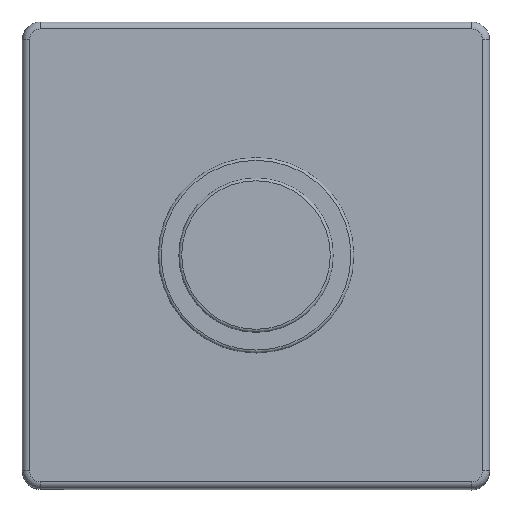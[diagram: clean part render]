
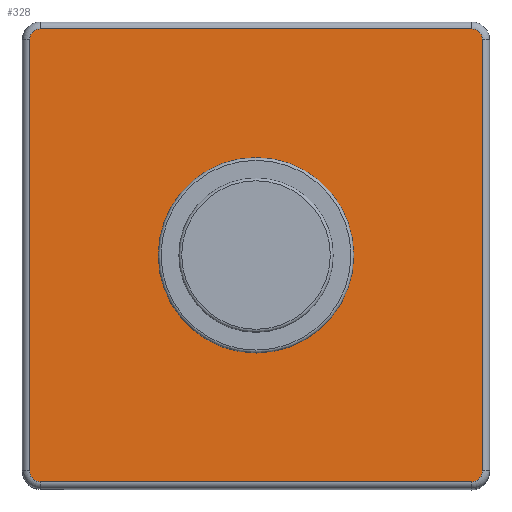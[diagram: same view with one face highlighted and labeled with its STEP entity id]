
A CAD part, top view. The second image highlights one B-rep face of the part: STEP entity #328.
In plain terms, the highlighted planar face has unit normal (0, 0.028, 1).
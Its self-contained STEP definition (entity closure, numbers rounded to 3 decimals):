
#35=FACE_BOUND('',#61,.T.);
#37=FACE_OUTER_BOUND('',#60,.T.);
#60=EDGE_LOOP('',(#225,#226,#227,#228,#229,#230,#231,#232));
#61=EDGE_LOOP('',(#233));
#85=CIRCLE('',#366,0.77);
#86=CIRCLE('',#367,0.77);
#87=CIRCLE('',#368,0.77);
#88=CIRCLE('',#369,0.77);
#89=CIRCLE('',#370,6.911);
#110=LINE('',#534,#129);
#111=LINE('',#538,#130);
#112=LINE('',#542,#131);
#113=LINE('',#546,#132);
#129=VECTOR('',#417,10.);
#130=VECTOR('',#420,10.);
#131=VECTOR('',#423,10.);
#132=VECTOR('',#426,10.);
#148=VERTEX_POINT('',#532);
#149=VERTEX_POINT('',#533);
#150=VERTEX_POINT('',#535);
#151=VERTEX_POINT('',#537);
#152=VERTEX_POINT('',#539);
#153=VERTEX_POINT('',#541);
#154=VERTEX_POINT('',#543);
#155=VERTEX_POINT('',#545);
#156=VERTEX_POINT('',#548);
#177=EDGE_CURVE('',#148,#149,#110,.T.);
#178=EDGE_CURVE('',#150,#148,#85,.T.);
#179=EDGE_CURVE('',#151,#150,#111,.T.);
#180=EDGE_CURVE('',#152,#151,#86,.T.);
#181=EDGE_CURVE('',#153,#152,#112,.T.);
#182=EDGE_CURVE('',#154,#153,#87,.T.);
#183=EDGE_CURVE('',#155,#154,#113,.T.);
#184=EDGE_CURVE('',#149,#155,#88,.T.);
#185=EDGE_CURVE('',#156,#156,#89,.T.);
#225=ORIENTED_EDGE('',*,*,#177,.F.);
#226=ORIENTED_EDGE('',*,*,#178,.F.);
#227=ORIENTED_EDGE('',*,*,#179,.F.);
#228=ORIENTED_EDGE('',*,*,#180,.F.);
#229=ORIENTED_EDGE('',*,*,#181,.F.);
#230=ORIENTED_EDGE('',*,*,#182,.F.);
#231=ORIENTED_EDGE('',*,*,#183,.F.);
#232=ORIENTED_EDGE('',*,*,#184,.F.);
#233=ORIENTED_EDGE('',*,*,#185,.F.);
#321=PLANE('',#365);
#328=ADVANCED_FACE('',(#37,#35),#321,.T.);
#365=AXIS2_PLACEMENT_3D('',#531,#415,#416);
#366=AXIS2_PLACEMENT_3D('',#536,#418,#419);
#367=AXIS2_PLACEMENT_3D('',#540,#421,#422);
#368=AXIS2_PLACEMENT_3D('',#544,#424,#425);
#369=AXIS2_PLACEMENT_3D('',#547,#427,#428);
#370=AXIS2_PLACEMENT_3D('',#549,#429,#430);
#415=DIRECTION('center_axis',(0.,0.028,1.));
#416=DIRECTION('ref_axis',(1.,0.,0.));
#417=DIRECTION('',(0.,1.,-0.028));
#418=DIRECTION('center_axis',(0.,-0.028,-1.));
#419=DIRECTION('ref_axis',(-0.707,-0.707,0.02));
#420=DIRECTION('',(-1.,0.,0.));
#421=DIRECTION('center_axis',(0.,-0.028,-1.));
#422=DIRECTION('ref_axis',(0.707,-0.707,0.02));
#423=DIRECTION('',(0.,-1.,0.028));
#424=DIRECTION('center_axis',(0.,-0.028,-1.));
#425=DIRECTION('ref_axis',(0.707,0.707,-0.02));
#426=DIRECTION('',(1.,0.,0.));
#427=DIRECTION('center_axis',(0.,-0.028,-1.));
#428=DIRECTION('ref_axis',(-0.707,0.707,-0.02));
#429=DIRECTION('center_axis',(0.,0.028,1.));
#430=DIRECTION('ref_axis',(1.,0.,0.));
#531=CARTESIAN_POINT('Origin',(13600.806,10887.9,-903.524));
#532=CARTESIAN_POINT('',(13650.2,11265.577,-914.113));
#533=CARTESIAN_POINT('',(13650.2,11296.045,-914.967));
#534=CARTESIAN_POINT('',(13650.2,11091.972,-909.246));
#535=CARTESIAN_POINT('',(13650.97,11264.807,-914.092));
#536=CARTESIAN_POINT('Origin',(13650.97,11265.577,-914.113));
#537=CARTESIAN_POINT('',(13681.45,11264.807,-914.092));
#538=CARTESIAN_POINT('',(13625.888,11264.807,-914.092));
#539=CARTESIAN_POINT('',(13682.22,11265.577,-914.113));
#540=CARTESIAN_POINT('Origin',(13681.45,11265.577,-914.113));
#541=CARTESIAN_POINT('',(13682.22,11296.045,-914.967));
#542=CARTESIAN_POINT('',(13682.22,11076.738,-908.819));
#543=CARTESIAN_POINT('',(13681.45,11296.814,-914.989));
#544=CARTESIAN_POINT('Origin',(13681.45,11296.045,-914.967));
#545=CARTESIAN_POINT('',(13650.97,11296.814,-914.989));
#546=CARTESIAN_POINT('',(13641.128,11296.814,-914.989));
#547=CARTESIAN_POINT('Origin',(13650.97,11296.045,-914.967));
#548=CARTESIAN_POINT('',(13659.299,11280.811,-914.54));
#549=CARTESIAN_POINT('Origin',(13666.21,11280.811,-914.54));
